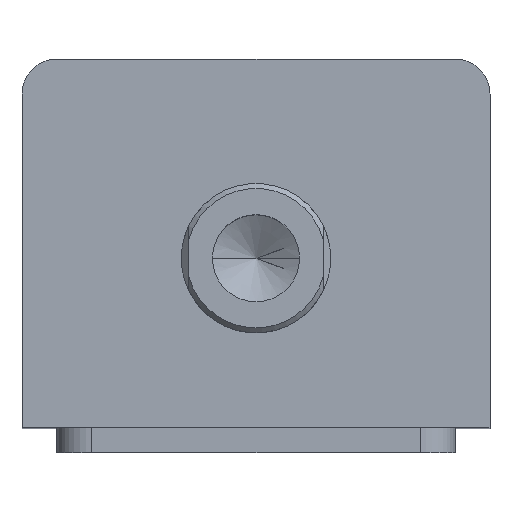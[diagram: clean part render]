
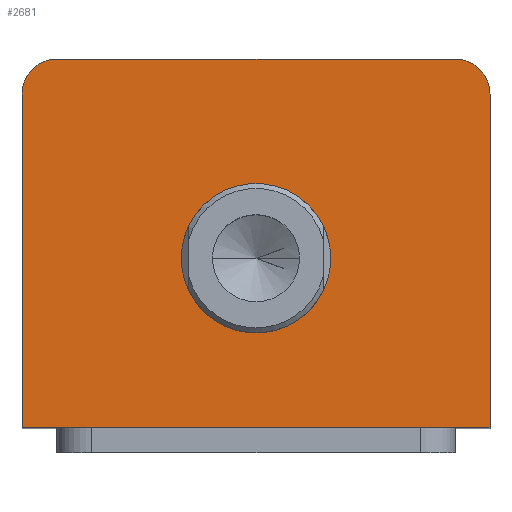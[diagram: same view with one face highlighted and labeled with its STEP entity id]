
A CAD part, top view. The second image highlights one B-rep face of the part: STEP entity #2681.
In plain terms, the highlighted planar face has unit normal (0, 0, 1).
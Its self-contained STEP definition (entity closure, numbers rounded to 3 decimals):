
#226 = CIRCLE ( 'NONE', #1120, 7. ) ;
#240 = CIRCLE ( 'NONE', #1140, 7. ) ;
#254 = LINE ( 'NONE', #1838, #257 ) ;
#257 = VECTOR ( 'NONE', #1836, 1000. ) ;
#367 = FACE_BOUND ( 'NONE', #2555, .T. ) ;
#372 = FACE_OUTER_BOUND ( 'NONE', #2530, .T. ) ;
#711 = CARTESIAN_POINT ( 'NONE',  ( 47., 30., 155. ) ) ;
#745 = DIRECTION ( 'NONE',  ( 1., 0., 0. ) ) ;
#746 = DIRECTION ( 'NONE',  ( 0., 0., 1. ) ) ;
#747 = CARTESIAN_POINT ( 'NONE',  ( 0., -3., 155. ) ) ;
#750 = CARTESIAN_POINT ( 'NONE',  ( -47., 30., 155. ) ) ;
#879 = DIRECTION ( 'NONE',  ( 1., 0., 0. ) ) ;
#880 = DIRECTION ( 'NONE',  ( 0., 0., 1. ) ) ;
#881 = CARTESIAN_POINT ( 'NONE',  ( 0., -3., 155. ) ) ;
#1075 = AXIS2_PLACEMENT_3D ( 'NONE', #2201, #2191, #2188 ) ;
#1120 = AXIS2_PLACEMENT_3D ( 'NONE', #1594, #1597, #1827 ) ;
#1138 = AXIS2_PLACEMENT_3D ( 'NONE', #747, #746, #745 ) ;
#1140 = AXIS2_PLACEMENT_3D ( 'NONE', #1750, #1824, #1611 ) ;
#1168 = AXIS2_PLACEMENT_3D ( 'NONE', #881, #880, #879 ) ;
#1228 = EDGE_CURVE ( 'NONE', #2576, #2603, #1390, .T. ) ;
#1279 = EDGE_CURVE ( 'NONE', #2603, #2576, #1465, .T. ) ;
#1281 = VERTEX_POINT ( 'NONE', #750 ) ;
#1318 = VERTEX_POINT ( 'NONE', #711 ) ;
#1390 = CIRCLE ( 'NONE', #1168, 15. ) ;
#1465 = CIRCLE ( 'NONE', #1138, 15. ) ;
#1496 = LINE ( 'NONE', #1903, #1503 ) ;
#1503 = VECTOR ( 'NONE', #1721, 1000. ) ;
#1533 = LINE ( 'NONE', #1834, #1536 ) ;
#1536 = VECTOR ( 'NONE', #1856, 1000. ) ;
#1564 = LINE ( 'NONE', #1678, #1567 ) ;
#1567 = VECTOR ( 'NONE', #1858, 1000. ) ;
#1594 = CARTESIAN_POINT ( 'NONE',  ( 40., 30., 155. ) ) ;
#1597 = DIRECTION ( 'NONE',  ( 0., 0., 1. ) ) ;
#1611 = DIRECTION ( 'NONE',  ( 1., 0., 0. ) ) ;
#1613 = CARTESIAN_POINT ( 'NONE',  ( 40., 37., 155. ) ) ;
#1614 = CARTESIAN_POINT ( 'NONE',  ( -40., 37., 155. ) ) ;
#1615 = CARTESIAN_POINT ( 'NONE',  ( 15., -3., 155. ) ) ;
#1678 = CARTESIAN_POINT ( 'NONE',  ( 47., 37., 155. ) ) ;
#1721 = DIRECTION ( 'NONE',  ( 1., 0., 0. ) ) ;
#1750 = CARTESIAN_POINT ( 'NONE',  ( -40., 30., 155. ) ) ;
#1824 = DIRECTION ( 'NONE',  ( 0., 0., 1. ) ) ;
#1827 = DIRECTION ( 'NONE',  ( 1., 0., 0. ) ) ;
#1834 = CARTESIAN_POINT ( 'NONE',  ( -47., 37., 155. ) ) ;
#1836 = DIRECTION ( 'NONE',  ( 0., -1., 0. ) ) ;
#1838 = CARTESIAN_POINT ( 'NONE',  ( -47., 37., 155. ) ) ;
#1856 = DIRECTION ( 'NONE',  ( -1., 0., 0. ) ) ;
#1858 = DIRECTION ( 'NONE',  ( 0., 1., 0. ) ) ;
#1903 = CARTESIAN_POINT ( 'NONE',  ( -47., -37., 155. ) ) ;
#1938 = EDGE_CURVE ( 'NONE', #2615, #2610, #1496, .T. ) ;
#1957 = EDGE_CURVE ( 'NONE', #2578, #2577, #1533, .T. ) ;
#2188 = DIRECTION ( 'NONE',  ( 1., 0., 0. ) ) ;
#2191 = DIRECTION ( 'NONE',  ( 0., 0., 1. ) ) ;
#2198 = PLANE ( 'NONE',  #1075 ) ;
#2201 = CARTESIAN_POINT ( 'NONE',  ( 0., 0., 155. ) ) ;
#2240 = CARTESIAN_POINT ( 'NONE',  ( -47., -37., 155. ) ) ;
#2245 = CARTESIAN_POINT ( 'NONE',  ( -15., -3., 155. ) ) ;
#2250 = CARTESIAN_POINT ( 'NONE',  ( 47., -37., 155. ) ) ;
#2280 = EDGE_CURVE ( 'NONE', #2610, #1318, #1564, .T. ) ;
#2286 = EDGE_CURVE ( 'NONE', #1318, #2578, #226, .T. ) ;
#2296 = EDGE_CURVE ( 'NONE', #2577, #1281, #240, .T. ) ;
#2307 = EDGE_CURVE ( 'NONE', #1281, #2615, #254, .T. ) ;
#2368 = ORIENTED_EDGE ( 'NONE', *, *, #2286, .T. ) ;
#2369 = ORIENTED_EDGE ( 'NONE', *, *, #2280, .T. ) ;
#2370 = ORIENTED_EDGE ( 'NONE', *, *, #1938, .T. ) ;
#2371 = ORIENTED_EDGE ( 'NONE', *, *, #2307, .T. ) ;
#2372 = ORIENTED_EDGE ( 'NONE', *, *, #2296, .T. ) ;
#2373 = ORIENTED_EDGE ( 'NONE', *, *, #1957, .T. ) ;
#2374 = ORIENTED_EDGE ( 'NONE', *, *, #1279, .F. ) ;
#2375 = ORIENTED_EDGE ( 'NONE', *, *, #1228, .F. ) ;
#2530 = EDGE_LOOP ( 'NONE', ( #2373, #2372, #2371, #2370, #2369, #2368 ) ) ;
#2555 = EDGE_LOOP ( 'NONE', ( #2375, #2374 ) ) ;
#2576 = VERTEX_POINT ( 'NONE', #1615 ) ;
#2577 = VERTEX_POINT ( 'NONE', #1614 ) ;
#2578 = VERTEX_POINT ( 'NONE', #1613 ) ;
#2603 = VERTEX_POINT ( 'NONE', #2245 ) ;
#2610 = VERTEX_POINT ( 'NONE', #2250 ) ;
#2615 = VERTEX_POINT ( 'NONE', #2240 ) ;
#2681 = ADVANCED_FACE ( 'NONE', ( #367, #372 ), #2198, .T. ) ;
